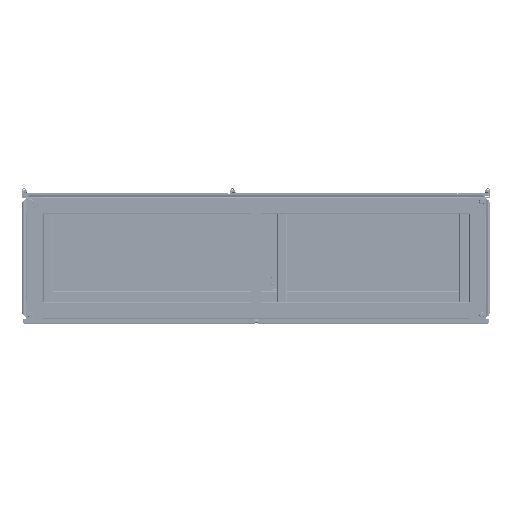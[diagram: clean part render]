
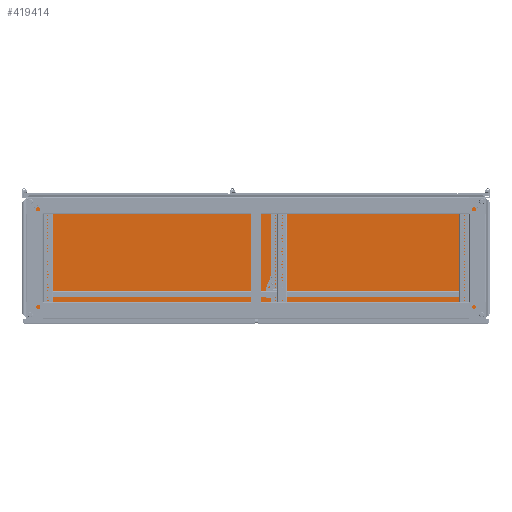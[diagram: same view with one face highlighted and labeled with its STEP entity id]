
A CAD part, front view. The second image highlights one B-rep face of the part: STEP entity #419414.
In plain terms, the highlighted planar face has unit normal (0, -1, 0).
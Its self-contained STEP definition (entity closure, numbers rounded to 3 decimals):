
#416709=DIRECTION('',(-1.,0.,0.));
#416710=VECTOR('',#416709,1762.5);
#416711=CARTESIAN_POINT('',(881.25,11.5,231.25));
#416712=LINE('',#416711,#416710);
#417048=DIRECTION('',(0.,0.,-1.));
#417049=VECTOR('',#417048,462.5);
#417050=CARTESIAN_POINT('',(-881.25,11.5,231.25));
#417051=LINE('',#417050,#417049);
#417067=DIRECTION('',(-1.,0.,0.));
#417068=VECTOR('',#417067,1762.5);
#417069=CARTESIAN_POINT('',(881.25,11.5,-231.25));
#417070=LINE('',#417069,#417068);
#417071=DIRECTION('',(0.,0.,-1.));
#417072=VECTOR('',#417071,462.5);
#417073=CARTESIAN_POINT('',(881.25,11.5,231.25));
#417074=LINE('',#417073,#417072);
#417075=CARTESIAN_POINT('',(867.5,11.5,217.5));
#417076=DIRECTION('',(0.,1.,0.));
#417077=DIRECTION('',(1.,0.,0.));
#417078=AXIS2_PLACEMENT_3D('',#417075,#417076,#417077);
#417080=CARTESIAN_POINT('',(867.5,11.5,217.5));
#417081=DIRECTION('',(0.,1.,0.));
#417082=DIRECTION('',(-1.,0.,0.));
#417083=AXIS2_PLACEMENT_3D('',#417080,#417081,#417082);
#417085=CARTESIAN_POINT('',(867.5,11.5,-217.5));
#417086=DIRECTION('',(0.,-1.,0.));
#417087=DIRECTION('',(1.,0.,0.));
#417088=AXIS2_PLACEMENT_3D('',#417085,#417086,#417087);
#417090=CARTESIAN_POINT('',(867.5,11.5,-217.5));
#417091=DIRECTION('',(0.,-1.,0.));
#417092=DIRECTION('',(-1.,0.,0.));
#417093=AXIS2_PLACEMENT_3D('',#417090,#417091,#417092);
#417095=CARTESIAN_POINT('',(-867.5,11.5,217.5));
#417096=DIRECTION('',(0.,-1.,0.));
#417097=DIRECTION('',(-1.,0.,0.));
#417098=AXIS2_PLACEMENT_3D('',#417095,#417096,#417097);
#417100=CARTESIAN_POINT('',(-867.5,11.5,217.5));
#417101=DIRECTION('',(0.,-1.,0.));
#417102=DIRECTION('',(1.,0.,0.));
#417103=AXIS2_PLACEMENT_3D('',#417100,#417101,#417102);
#417105=CARTESIAN_POINT('',(-867.5,11.5,-217.5));
#417106=DIRECTION('',(0.,1.,0.));
#417107=DIRECTION('',(-1.,0.,0.));
#417108=AXIS2_PLACEMENT_3D('',#417105,#417106,#417107);
#417110=CARTESIAN_POINT('',(-867.5,11.5,-217.5));
#417111=DIRECTION('',(0.,1.,0.));
#417112=DIRECTION('',(1.,0.,0.));
#417113=AXIS2_PLACEMENT_3D('',#417110,#417111,#417112);
#417115=CARTESIAN_POINT('',(0.,11.5,217.5));
#417116=DIRECTION('',(0.,1.,0.));
#417117=DIRECTION('',(0.,0.,1.));
#417118=AXIS2_PLACEMENT_3D('',#417115,#417116,#417117);
#417120=CARTESIAN_POINT('',(0.,11.5,217.5));
#417121=DIRECTION('',(0.,1.,0.));
#417122=DIRECTION('',(0.,0.,-1.));
#417123=AXIS2_PLACEMENT_3D('',#417120,#417121,#417122);
#417125=CARTESIAN_POINT('',(0.,11.5,-217.5));
#417126=DIRECTION('',(0.,-1.,0.));
#417127=DIRECTION('',(0.,0.,-1.));
#417128=AXIS2_PLACEMENT_3D('',#417125,#417126,#417127);
#417130=CARTESIAN_POINT('',(0.,11.5,-217.5));
#417131=DIRECTION('',(0.,-1.,0.));
#417132=DIRECTION('',(0.,0.,1.));
#417133=AXIS2_PLACEMENT_3D('',#417130,#417131,#417132);
#417135=CARTESIAN_POINT('',(799.75,11.5,0.));
#417136=DIRECTION('',(0.,-1.,0.));
#417137=DIRECTION('',(0.,0.,-1.));
#417138=AXIS2_PLACEMENT_3D('',#417135,#417136,#417137);
#417140=CARTESIAN_POINT('',(799.75,11.5,0.));
#417141=DIRECTION('',(0.,-1.,0.));
#417142=DIRECTION('',(0.,0.,1.));
#417143=AXIS2_PLACEMENT_3D('',#417140,#417141,#417142);
#417145=CARTESIAN_POINT('',(-799.75,11.5,0.));
#417146=DIRECTION('',(0.,-1.,0.));
#417147=DIRECTION('',(0.,0.,-1.));
#417148=AXIS2_PLACEMENT_3D('',#417145,#417146,#417147);
#417150=CARTESIAN_POINT('',(-799.75,11.5,0.));
#417151=DIRECTION('',(0.,-1.,0.));
#417152=DIRECTION('',(0.,0.,1.));
#417153=AXIS2_PLACEMENT_3D('',#417150,#417151,#417152);
#417952=CARTESIAN_POINT('',(877.993,11.5,217.5));
#417953=CARTESIAN_POINT('',(857.007,11.5,217.5));
#417954=VERTEX_POINT('',#417952);
#417955=VERTEX_POINT('',#417953);
#417976=CARTESIAN_POINT('',(877.993,11.5,-217.5));
#417977=CARTESIAN_POINT('',(857.007,11.5,-217.5));
#417978=VERTEX_POINT('',#417976);
#417979=VERTEX_POINT('',#417977);
#418000=CARTESIAN_POINT('',(-877.993,11.5,217.5));
#418001=CARTESIAN_POINT('',(-857.007,11.5,217.5));
#418002=VERTEX_POINT('',#418000);
#418003=VERTEX_POINT('',#418001);
#418024=CARTESIAN_POINT('',(-877.993,11.5,-217.5));
#418025=CARTESIAN_POINT('',(-857.007,11.5,-217.5));
#418026=VERTEX_POINT('',#418024);
#418027=VERTEX_POINT('',#418025);
#418036=CARTESIAN_POINT('',(799.75,11.5,-0.5));
#418037=CARTESIAN_POINT('',(799.75,11.5,0.5));
#418038=VERTEX_POINT('',#418036);
#418039=VERTEX_POINT('',#418037);
#418040=CARTESIAN_POINT('',(-799.75,11.5,-0.5));
#418041=CARTESIAN_POINT('',(-799.75,11.5,0.5));
#418042=VERTEX_POINT('',#418040);
#418043=VERTEX_POINT('',#418041);
#418068=CARTESIAN_POINT('',(881.25,11.5,231.25));
#418070=VERTEX_POINT('',#418068);
#418072=CARTESIAN_POINT('',(-881.25,11.5,231.25));
#418073=VERTEX_POINT('',#418072);
#418084=CARTESIAN_POINT('',(881.25,11.5,-231.25));
#418086=VERTEX_POINT('',#418084);
#418090=CARTESIAN_POINT('',(-881.25,11.5,-231.25));
#418091=VERTEX_POINT('',#418090);
#418136=CARTESIAN_POINT('',(0.,11.5,224.078));
#418137=CARTESIAN_POINT('',(0.,11.5,210.922));
#418138=VERTEX_POINT('',#418136);
#418139=VERTEX_POINT('',#418137);
#418160=CARTESIAN_POINT('',(0.,11.5,-224.078));
#418161=CARTESIAN_POINT('',(0.,11.5,-210.922));
#418162=VERTEX_POINT('',#418160);
#418163=VERTEX_POINT('',#418161);
#419355=CARTESIAN_POINT('',(881.25,11.5,-231.25));
#419356=DIRECTION('',(0.,1.,0.));
#419357=DIRECTION('',(0.,0.,1.));
#419358=AXIS2_PLACEMENT_3D('',#419355,#419356,#419357);
#419359=PLANE('',#419358);
#419360=ORIENTED_EDGE('',*,*,#418891,.T.);
#419361=ORIENTED_EDGE('',*,*,#419345,.F.);
#419362=ORIENTED_EDGE('',*,*,#418785,.F.);
#419363=ORIENTED_EDGE('',*,*,#418853,.T.);
#419364=EDGE_LOOP('',(#419360,#419361,#419362,#419363));
#419365=FACE_OUTER_BOUND('',#419364,.F.);
#419367=ORIENTED_EDGE('',*,*,#419366,.F.);
#419369=ORIENTED_EDGE('',*,*,#419368,.F.);
#419370=EDGE_LOOP('',(#419367,#419369));
#419371=FACE_BOUND('',#419370,.F.);
#419373=ORIENTED_EDGE('',*,*,#419372,.T.);
#419375=ORIENTED_EDGE('',*,*,#419374,.T.);
#419376=EDGE_LOOP('',(#419373,#419375));
#419377=FACE_BOUND('',#419376,.F.);
#419379=ORIENTED_EDGE('',*,*,#419378,.T.);
#419381=ORIENTED_EDGE('',*,*,#419380,.T.);
#419382=EDGE_LOOP('',(#419379,#419381));
#419383=FACE_BOUND('',#419382,.F.);
#419385=ORIENTED_EDGE('',*,*,#419384,.F.);
#419387=ORIENTED_EDGE('',*,*,#419386,.F.);
#419388=EDGE_LOOP('',(#419385,#419387));
#419389=FACE_BOUND('',#419388,.F.);
#419391=ORIENTED_EDGE('',*,*,#419390,.F.);
#419393=ORIENTED_EDGE('',*,*,#419392,.F.);
#419394=EDGE_LOOP('',(#419391,#419393));
#419395=FACE_BOUND('',#419394,.F.);
#419397=ORIENTED_EDGE('',*,*,#419396,.T.);
#419399=ORIENTED_EDGE('',*,*,#419398,.T.);
#419400=EDGE_LOOP('',(#419397,#419399));
#419401=FACE_BOUND('',#419400,.F.);
#419403=ORIENTED_EDGE('',*,*,#419402,.T.);
#419405=ORIENTED_EDGE('',*,*,#419404,.T.);
#419406=EDGE_LOOP('',(#419403,#419405));
#419407=FACE_BOUND('',#419406,.F.);
#419409=ORIENTED_EDGE('',*,*,#419408,.T.);
#419411=ORIENTED_EDGE('',*,*,#419410,.T.);
#419412=EDGE_LOOP('',(#419409,#419411));
#419413=FACE_BOUND('',#419412,.F.);
#419414=ADVANCED_FACE('',(#419365,#419371,#419377,#419383,#419389,#419395,
#419401,#419407,#419413),#419359,.F.);
#417079=CIRCLE('',#417078,10.493);
#417084=CIRCLE('',#417083,10.493);
#417089=CIRCLE('',#417088,10.493);
#417094=CIRCLE('',#417093,10.493);
#417099=CIRCLE('',#417098,10.493);
#417104=CIRCLE('',#417103,10.493);
#417109=CIRCLE('',#417108,10.493);
#417114=CIRCLE('',#417113,10.493);
#417119=CIRCLE('',#417118,6.578);
#417124=CIRCLE('',#417123,6.578);
#417129=CIRCLE('',#417128,6.578);
#417134=CIRCLE('',#417133,6.578);
#417139=CIRCLE('',#417138,0.5);
#417144=CIRCLE('',#417143,0.5);
#417149=CIRCLE('',#417148,0.5);
#417154=CIRCLE('',#417153,0.5);
#418785=EDGE_CURVE('',#418070,#418073,#416712,.T.);
#418853=EDGE_CURVE('',#418070,#418086,#417074,.T.);
#418891=EDGE_CURVE('',#418086,#418091,#417070,.T.);
#419345=EDGE_CURVE('',#418073,#418091,#417051,.T.);
#419366=EDGE_CURVE('',#417954,#417955,#417079,.T.);
#419368=EDGE_CURVE('',#417955,#417954,#417084,.T.);
#419372=EDGE_CURVE('',#417978,#417979,#417089,.T.);
#419374=EDGE_CURVE('',#417979,#417978,#417094,.T.);
#419378=EDGE_CURVE('',#418002,#418003,#417099,.T.);
#419380=EDGE_CURVE('',#418003,#418002,#417104,.T.);
#419384=EDGE_CURVE('',#418026,#418027,#417109,.T.);
#419386=EDGE_CURVE('',#418027,#418026,#417114,.T.);
#419390=EDGE_CURVE('',#418138,#418139,#417119,.T.);
#419392=EDGE_CURVE('',#418139,#418138,#417124,.T.);
#419396=EDGE_CURVE('',#418162,#418163,#417129,.T.);
#419398=EDGE_CURVE('',#418163,#418162,#417134,.T.);
#419402=EDGE_CURVE('',#418038,#418039,#417139,.T.);
#419404=EDGE_CURVE('',#418039,#418038,#417144,.T.);
#419408=EDGE_CURVE('',#418042,#418043,#417149,.T.);
#419410=EDGE_CURVE('',#418043,#418042,#417154,.T.);
